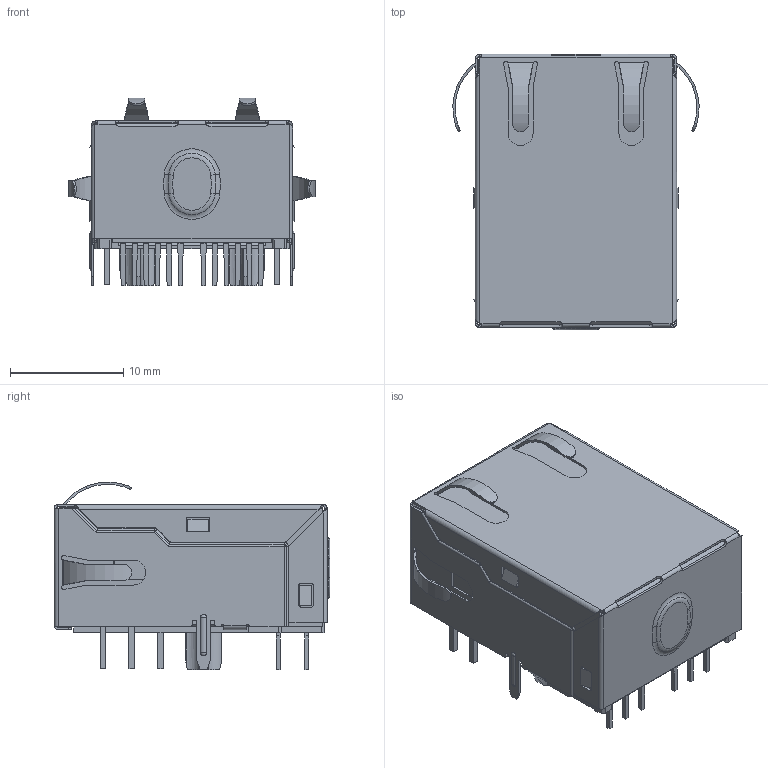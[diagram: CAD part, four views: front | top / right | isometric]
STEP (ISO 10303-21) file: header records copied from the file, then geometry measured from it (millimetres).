
FILE_DESCRIPTION((''),'2;1');
FILE_NAME('DGKYD811Q351FM1A10DB1057','2023-05-22T14:26:06',('Administrator'),(''),'CREO PARAMETRIC BY PTC INC, 2019010','CREO PARAMETRIC BY PTC INC, 2019010','');
FILE_SCHEMA(('CONFIG_CONTROL_DESIGN'));
Products named in the file (1): DGKYD811Q351FM1A10DB1057
Bounding box: 21.77 x 24.38 x 16.59 mm (x, y, z)
Volume: 3501.3 mm3; surface area: 6197 mm2
Topology: 2 solids, 4 shells, 1949 faces, 5786 edges, 3747 vertices
Faces by surface type: plane 1411, cylinder 442, bspline 60, torus 24, sphere 12
Entity records: 67525 total; most frequent: CARTESIAN_POINT 14916, ORIENTED_EDGE 11556, DIRECTION 10284, EDGE_CURVE 5778, VECTOR 4616, LINE 4616, VERTEX_POINT 3747, AXIS2_PLACEMENT_3D 2834
